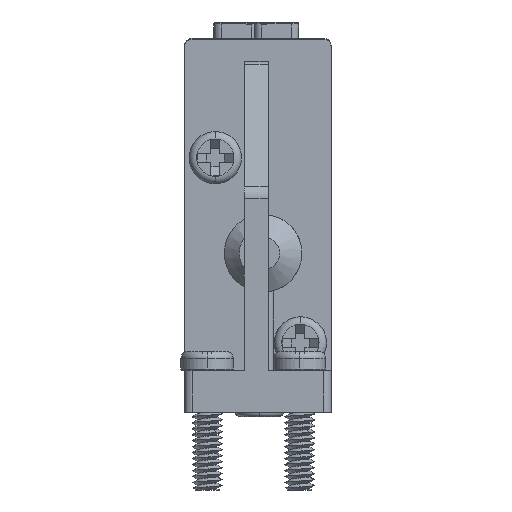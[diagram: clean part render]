
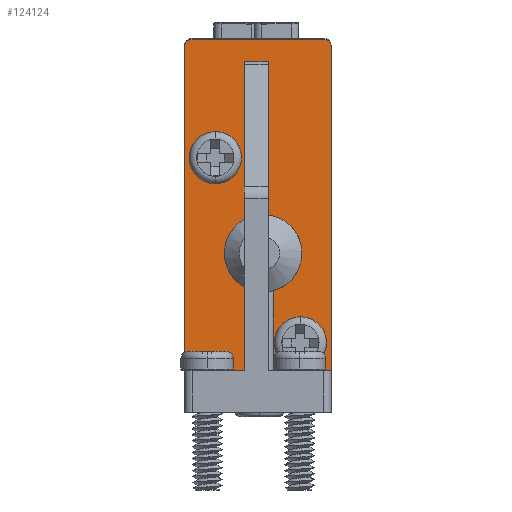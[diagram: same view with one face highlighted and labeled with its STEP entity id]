
A CAD part, left-side view. The second image highlights one B-rep face of the part: STEP entity #124124.
In plain terms, the highlighted planar face has unit normal (-1, 0, 0).
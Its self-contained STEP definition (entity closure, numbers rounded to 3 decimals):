
#36627=CARTESIAN_POINT('',(-23.5,0.5,12.05));
#36628=DIRECTION('',(-1.,0.,0.));
#36629=DIRECTION('',(0.,-1.,0.));
#36630=AXIS2_PLACEMENT_3D('',#36627,#36628,#36629);
#36632=DIRECTION('',(0.,0.,1.));
#36633=VECTOR('',#36632,5.346);
#36634=CARTESIAN_POINT('',(-23.5,3.85,-9.65));
#36635=LINE('',#36634,#36633);
#36636=CARTESIAN_POINT('',(-23.5,4.55,-1.8));
#36637=DIRECTION('',(1.,0.,0.));
#36638=DIRECTION('',(0.,-0.135,0.991));
#36639=AXIS2_PLACEMENT_3D('',#36636,#36637,#36638);
#36641=DIRECTION('',(0.,0.,1.));
#36642=VECTOR('',#36641,10.274);
#36643=CARTESIAN_POINT('',(-23.5,4.2,0.776));
#36644=LINE('',#36643,#36642);
#36645=DIRECTION('',(0.,-1.,0.));
#36646=VECTOR('',#36645,1.6);
#36647=CARTESIAN_POINT('',(-23.5,5.8,11.05));
#36648=LINE('',#36647,#36646);
#36649=DIRECTION('',(0.,0.,1.));
#36650=VECTOR('',#36649,10.57);
#36651=CARTESIAN_POINT('',(-23.5,5.8,0.48));
#36652=LINE('',#36651,#36650);
#36653=CARTESIAN_POINT('',(-23.5,4.55,-1.8));
#36654=DIRECTION('',(1.,0.,0.));
#36655=DIRECTION('',(0.,0.481,-0.877));
#36656=AXIS2_PLACEMENT_3D('',#36653,#36654,#36655);
#36658=DIRECTION('',(0.,0.,1.));
#36659=VECTOR('',#36658,5.57);
#36660=CARTESIAN_POINT('',(-23.5,5.8,-9.65));
#36661=LINE('',#36660,#36659);
#36662=CARTESIAN_POINT('',(-23.5,9.3,12.05));
#36663=DIRECTION('',(-1.,0.,0.));
#36664=DIRECTION('',(0.,0.,1.));
#36665=AXIS2_PLACEMENT_3D('',#36662,#36663,#36664);
#36667=DIRECTION('',(0.,1.,0.));
#36668=VECTOR('',#36667,8.8);
#36669=CARTESIAN_POINT('',(-23.5,0.5,12.55));
#36670=LINE('',#36669,#36668);
#36671=CARTESIAN_POINT('',(-23.5,2.05,-7.8));
#36672=DIRECTION('',(1.,0.,0.));
#36673=DIRECTION('',(0.,0.,1.));
#36674=AXIS2_PLACEMENT_3D('',#36671,#36672,#36673);
#36676=CARTESIAN_POINT('',(-23.5,2.05,-7.8));
#36677=DIRECTION('',(1.,0.,0.));
#36678=DIRECTION('',(0.,0.,-1.));
#36679=AXIS2_PLACEMENT_3D('',#36676,#36677,#36678);
#36681=CARTESIAN_POINT('',(-23.5,7.75,4.6));
#36682=DIRECTION('',(1.,0.,0.));
#36683=DIRECTION('',(0.,0.,1.));
#36684=AXIS2_PLACEMENT_3D('',#36681,#36682,#36683);
#36686=CARTESIAN_POINT('',(-23.5,7.75,4.6));
#36687=DIRECTION('',(1.,0.,0.));
#36688=DIRECTION('',(0.,0.,-1.));
#36689=AXIS2_PLACEMENT_3D('',#36686,#36687,#36688);
#36711=DIRECTION('',(0.,0.,-1.));
#36712=VECTOR('',#36711,21.7);
#36713=CARTESIAN_POINT('',(-23.5,0.,12.05));
#36714=LINE('',#36713,#36712);
#36868=DIRECTION('',(0.,1.,0.));
#36869=VECTOR('',#36868,4.);
#36870=CARTESIAN_POINT('',(-23.5,5.8,-9.65));
#36871=LINE('',#36870,#36869);
#36925=DIRECTION('',(0.,0.,-1.));
#36926=VECTOR('',#36925,21.7);
#36927=CARTESIAN_POINT('',(-23.5,9.8,12.05));
#36928=LINE('',#36927,#36926);
#37442=DIRECTION('',(0.,1.,0.));
#37443=VECTOR('',#37442,3.85);
#37444=CARTESIAN_POINT('',(-23.5,0.,-9.65));
#37445=LINE('',#37444,#37443);
#81640=CARTESIAN_POINT('',(-23.5,5.8,-9.65));
#81642=VERTEX_POINT('',#81640);
#81644=CARTESIAN_POINT('',(-23.5,9.8,-9.65));
#81645=VERTEX_POINT('',#81644);
#81796=CARTESIAN_POINT('',(-23.5,5.8,11.05));
#81797=VERTEX_POINT('',#81796);
#81800=CARTESIAN_POINT('',(-23.5,5.8,-4.08));
#81801=VERTEX_POINT('',#81800);
#81802=CARTESIAN_POINT('',(-23.5,5.8,0.48));
#81803=VERTEX_POINT('',#81802);
#81824=CARTESIAN_POINT('',(-23.5,4.2,11.05));
#81825=VERTEX_POINT('',#81824);
#81836=CARTESIAN_POINT('',(-23.5,4.2,0.776));
#81837=VERTEX_POINT('',#81836);
#81846=CARTESIAN_POINT('',(-23.5,3.85,-9.65));
#81847=CARTESIAN_POINT('',(-23.5,3.85,-4.304));
#81848=VERTEX_POINT('',#81846);
#81849=VERTEX_POINT('',#81847);
#81850=CARTESIAN_POINT('',(-23.5,0.,-9.65));
#81851=VERTEX_POINT('',#81850);
#81860=CARTESIAN_POINT('',(-23.5,0.,12.05));
#81861=CARTESIAN_POINT('',(-23.5,0.5,12.55));
#81862=VERTEX_POINT('',#81860);
#81863=VERTEX_POINT('',#81861);
#81864=CARTESIAN_POINT('',(-23.5,9.3,12.55));
#81865=CARTESIAN_POINT('',(-23.5,9.8,12.05));
#81866=VERTEX_POINT('',#81864);
#81867=VERTEX_POINT('',#81865);
#82058=CARTESIAN_POINT('',(-23.5,2.05,-6.15));
#82059=CARTESIAN_POINT('',(-23.5,2.05,-9.45));
#82060=VERTEX_POINT('',#82058);
#82061=VERTEX_POINT('',#82059);
#82192=CARTESIAN_POINT('',(-23.5,7.75,6.25));
#82193=CARTESIAN_POINT('',(-23.5,7.75,2.95));
#82194=VERTEX_POINT('',#82192);
#82195=VERTEX_POINT('',#82193);
#124078=CARTESIAN_POINT('',(-23.5,0.,12.55));
#124079=DIRECTION('',(-1.,0.,0.));
#124080=DIRECTION('',(0.,0.,-1.));
#124081=AXIS2_PLACEMENT_3D('',#124078,#124079,#124080);
#124082=PLANE('',#124081);
#124083=ORIENTED_EDGE('',*,*,#124068,.F.);
#124085=ORIENTED_EDGE('',*,*,#124084,.T.);
#124087=ORIENTED_EDGE('',*,*,#124086,.T.);
#124089=ORIENTED_EDGE('',*,*,#124088,.T.);
#124091=ORIENTED_EDGE('',*,*,#124090,.F.);
#124093=ORIENTED_EDGE('',*,*,#124092,.T.);
#124095=ORIENTED_EDGE('',*,*,#124094,.F.);
#124097=ORIENTED_EDGE('',*,*,#124096,.F.);
#124099=ORIENTED_EDGE('',*,*,#124098,.F.);
#124101=ORIENTED_EDGE('',*,*,#124100,.F.);
#124103=ORIENTED_EDGE('',*,*,#124102,.T.);
#124105=ORIENTED_EDGE('',*,*,#124104,.F.);
#124107=ORIENTED_EDGE('',*,*,#124106,.F.);
#124109=ORIENTED_EDGE('',*,*,#124108,.F.);
#124110=EDGE_LOOP('',(#124083,#124085,#124087,#124089,#124091,#124093,#124095,
#124097,#124099,#124101,#124103,#124105,#124107,#124109));
#124111=FACE_OUTER_BOUND('',#124110,.F.);
#124113=ORIENTED_EDGE('',*,*,#124112,.F.);
#124115=ORIENTED_EDGE('',*,*,#124114,.F.);
#124116=EDGE_LOOP('',(#124113,#124115));
#124117=FACE_BOUND('',#124116,.F.);
#124119=ORIENTED_EDGE('',*,*,#124118,.F.);
#124121=ORIENTED_EDGE('',*,*,#124120,.F.);
#124122=EDGE_LOOP('',(#124119,#124121));
#124123=FACE_BOUND('',#124122,.F.);
#124124=ADVANCED_FACE('',(#124111,#124117,#124123),#124082,.T.);
#36631=CIRCLE('',#36630,0.5);
#36640=CIRCLE('',#36639,2.6);
#36657=CIRCLE('',#36656,2.6);
#36666=CIRCLE('',#36665,0.5);
#36675=CIRCLE('',#36674,1.65);
#36680=CIRCLE('',#36679,1.65);
#36685=CIRCLE('',#36684,1.65);
#36690=CIRCLE('',#36689,1.65);
#124068=EDGE_CURVE('',#81862,#81863,#36631,.T.);
#124084=EDGE_CURVE('',#81862,#81851,#36714,.T.);
#124086=EDGE_CURVE('',#81851,#81848,#37445,.T.);
#124088=EDGE_CURVE('',#81848,#81849,#36635,.T.);
#124090=EDGE_CURVE('',#81837,#81849,#36640,.T.);
#124092=EDGE_CURVE('',#81837,#81825,#36644,.T.);
#124094=EDGE_CURVE('',#81797,#81825,#36648,.T.);
#124096=EDGE_CURVE('',#81803,#81797,#36652,.T.);
#124098=EDGE_CURVE('',#81801,#81803,#36657,.T.);
#124100=EDGE_CURVE('',#81642,#81801,#36661,.T.);
#124102=EDGE_CURVE('',#81642,#81645,#36871,.T.);
#124104=EDGE_CURVE('',#81867,#81645,#36928,.T.);
#124106=EDGE_CURVE('',#81866,#81867,#36666,.T.);
#124108=EDGE_CURVE('',#81863,#81866,#36670,.T.);
#124112=EDGE_CURVE('',#82060,#82061,#36675,.T.);
#124114=EDGE_CURVE('',#82061,#82060,#36680,.T.);
#124118=EDGE_CURVE('',#82194,#82195,#36685,.T.);
#124120=EDGE_CURVE('',#82195,#82194,#36690,.T.);
